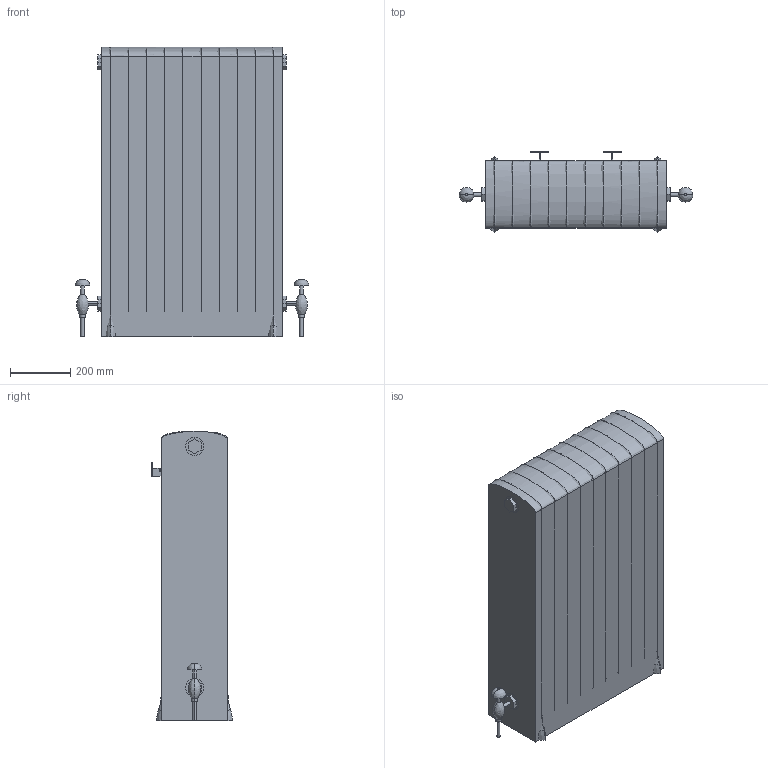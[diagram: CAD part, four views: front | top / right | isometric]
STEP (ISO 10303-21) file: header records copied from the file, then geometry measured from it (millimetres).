
FILE_DESCRIPTION(/* description */ (''),/* implementation_level */ '2;1');
FILE_NAME(/* name */ 'Ionic_6Column_WithFeet',/* time_stamp */ '2026-08-04T19:11:52+03:00',/* author */ (''),/* organization */ (''),/* preprocessor_version */ 'ST-DEVELOPER v20',/* originating_system */ '',/* authorisation */ '');
FILE_SCHEMA (('AP242_MANAGED_MODEL_BASED_3D_ENGINEERING_MIM_LF { 1 0 10303 442 1 1 4 }'));
Products named in the file (11): TopLevelAssembly; Выдавливание; Выдавливание_
1; Выдавливание_
2; Выдавливание_
3; Выдавливание_
4; IonicBracket; MHS_Chartwell_Valve_Floor; MHS_Chartwell_Valve_Floor_1; MHS_Ionic_4_6_Feet; MHS_Ionic_4_6
Assembly tree (23 placements, depth 2):
  TopLevelAssembly
    Выдавливание
    Выдавливание_
1
    Выдавливание_
2
    Выдавливание_
3
    MHS_Ionic_4_6  x10
    Выдавливание_
4
    MHS_Ionic_4_6_Feet  x4
    IonicBracket  x2
    MHS_Chartwell_Valve_Floor
    MHS_Chartwell_Valve_Floor_1
Bounding box: 774.75 x 268 x 960.02 mm (x, y, z)
Volume: 181602282.3 mm3; surface area: 11623881.3 mm2
Topology: 103 solids, 103 shells, 2276 faces, 5066 edges, 3116 vertices
Faces by surface type: plane 911, bspline 853, cylinder 400, cone 112
Entity records: 40811 total; most frequent: CARTESIAN_POINT 30889, ORIENTED_EDGE 1930, DIRECTION 1759, EDGE_CURVE 965, VERTEX_POINT 596, AXIS2_PLACEMENT_3D 592, LINE 575, VECTOR 575
